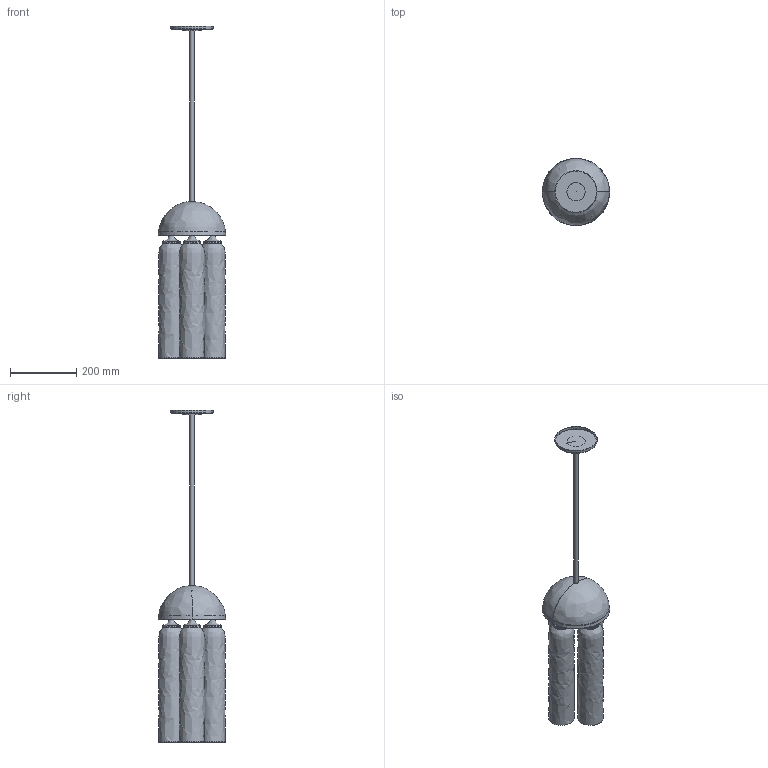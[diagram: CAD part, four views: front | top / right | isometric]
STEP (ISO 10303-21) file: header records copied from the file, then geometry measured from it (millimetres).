
FILE_DESCRIPTION(/* description */ (''),/* implementation_level */ '2;1');
FILE_NAME(/* name */ 'SkLO_AvroKO_CrownPendantShort_3D_LT634',/* time_stamp */ '2025-08-05T17:06:31+02:00',/* author */ (''),/* organization */ (''),/* preprocessor_version */ 'ST-DEVELOPER v16.5',/* originating_system */ 'Rhino 7.38',/* authorisation */ '');
FILE_SCHEMA (('CONFIG_CONTROL_DESIGN'));
Length unit declared in the file: millimetre
Products named in the file (1): Document
Bounding box: 203 x 202.88 x 1000.29 mm (x, y, z)
Volume: 1920478.2 mm3; surface area: 979573.3 mm2
Topology: 34 solids, 35 shells, 262 faces, 525 edges, 310 vertices
Faces by surface type: bspline 119, plane 99, cylinder 44
Full cylindrical faces by diameter (mm): 10.2 x5, 11 x4, 13 x5, 18.275 x1, 25 x4, 34.074 x4, 36 x4, 38 x4, 40 x1, 50 x4, 52 x4, 124 x1, 127 x1
Entity records: 10190 total; most frequent: CARTESIAN_POINT 6759, ORIENTED_EDGE 1001, EDGE_CURVE 501, VERTEX_POINT 310, EDGE_LOOP 292, ADVANCED_FACE 262, FACE_OUTER_BOUND 262, B_SPLINE_CURVE_WITH_KNOTS 179
